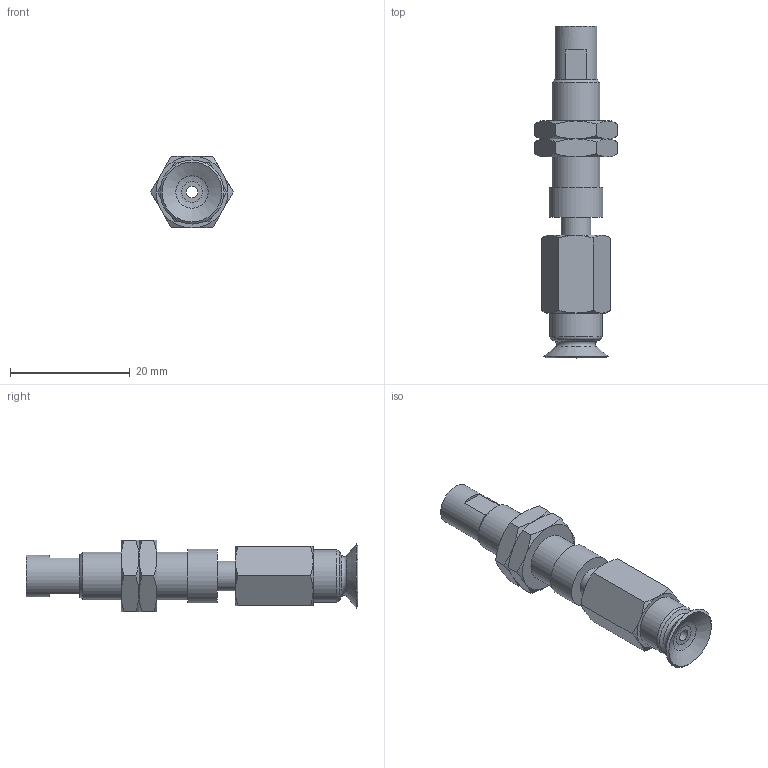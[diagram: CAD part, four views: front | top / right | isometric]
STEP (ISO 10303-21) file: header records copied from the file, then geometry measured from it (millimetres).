
FILE_DESCRIPTION(('STEP AP203'),'1');
FILE_NAME('.stp','2025-08-27T05:44:04',(' '),(' '),'Spatial InterOp 3D',' ',' ');
FILE_SCHEMA(('CONFIG_CONTROL_DESIGN'));
Length unit declared in the file: millimetre
Products named in the file (6): BNABPFTS-10A-3-※; ADAPTER; NAPATS-10A-3--M; Nut-10A-3-s; NAPFTS-10A-3-FBODY; BPFG-10A-※
Assembly tree (6 placements, depth 2):
  BNABPFTS-10A-3-※
    ADAPTER
    NAPATS-10A-3--M
    Nut-10A-3-s  x2
    NAPFTS-10A-3-FBODY
    BPFG-10A-※
Bounding box: 13.86 x 55.5 x 12 mm (x, y, z)
Volume: 3377.1 mm3; surface area: 3917.5 mm2
Topology: 6 solids, 6 shells, 113 faces, 234 edges, 141 vertices
Faces by surface type: cone 46, plane 42, cylinder 16, torus 8, bspline 1
Full cylindrical faces by diameter (mm): 2 x3, 4 x2, 4.134 x1, 5 x2, 6 x2, 7 x1, 7.188 x2, 8 x1, 8.7 x1, 9 x1
Entity records: 2667 total; most frequent: CARTESIAN_POINT 662, DIRECTION 364, ORIENTED_EDGE 290, AXIS2_PLACEMENT_3D 171, EDGE_CURVE 145, EDGE_LOOP 140, FACE_OUTER_BOUND 114, VERTEX_POINT 105
